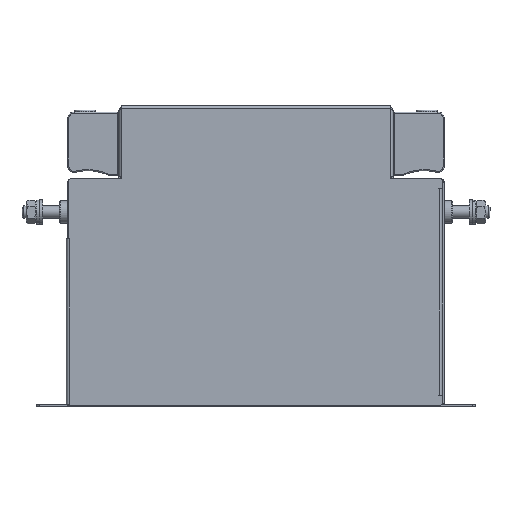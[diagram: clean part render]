
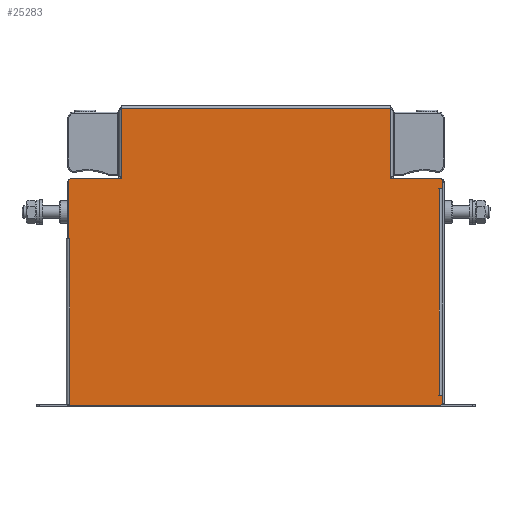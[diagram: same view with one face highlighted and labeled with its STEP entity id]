
A CAD part, top view. The second image highlights one B-rep face of the part: STEP entity #25283.
In plain terms, the highlighted planar face has unit normal (0, 0, 1).
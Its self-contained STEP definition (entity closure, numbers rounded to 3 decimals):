
#2688=FACE_OUTER_BOUND('',#4283,.T.);
#4283=EDGE_LOOP('',(#20041,#20042,#20043,#20044,#20045,#20046,#20047,#20048,
#20049,#20050,#20051,#20052,#20053,#20054,#20055,#20056,#20057,#20058,#20059,
#20060,#20061,#20062,#20063,#20064,#20065,#20066,#20067));
#6573=LINE('',#40890,#8991);
#6576=LINE('',#40896,#8994);
#6578=LINE('',#40900,#8996);
#6580=LINE('',#40905,#8998);
#6589=LINE('',#40929,#9007);
#6591=LINE('',#40934,#9009);
#6593=LINE('',#40939,#9011);
#6597=LINE('',#40945,#9015);
#6598=LINE('',#40947,#9016);
#6599=LINE('',#40951,#9017);
#6602=LINE('',#40955,#9020);
#6604=LINE('',#40959,#9022);
#6611=LINE('',#40979,#9029);
#6614=LINE('',#40991,#9032);
#6615=LINE('',#40995,#9033);
#6618=LINE('',#40999,#9036);
#6619=LINE('',#41001,#9037);
#6620=LINE('',#41005,#9038);
#6624=LINE('',#41011,#9042);
#6630=LINE('',#41026,#9048);
#6632=LINE('',#41030,#9050);
#6634=LINE('',#41034,#9052);
#6635=LINE('',#41036,#9053);
#6648=LINE('',#41059,#9066);
#6649=LINE('',#41061,#9067);
#6661=LINE('',#41086,#9079);
#6662=LINE('',#41088,#9080);
#8991=VECTOR('',#32733,10.);
#8994=VECTOR('',#32738,10.);
#8996=VECTOR('',#32742,10.);
#8998=VECTOR('',#32746,10.);
#9007=VECTOR('',#32773,10.);
#9009=VECTOR('',#32777,10.);
#9011=VECTOR('',#32781,10.);
#9015=VECTOR('',#32787,10.);
#9016=VECTOR('',#32790,10.);
#9017=VECTOR('',#32793,10.);
#9020=VECTOR('',#32798,10.);
#9022=VECTOR('',#32802,10.);
#9029=VECTOR('',#32827,10.);
#9032=VECTOR('',#32840,10.);
#9033=VECTOR('',#32843,10.);
#9036=VECTOR('',#32848,10.);
#9037=VECTOR('',#32851,10.);
#9038=VECTOR('',#32854,10.);
#9042=VECTOR('',#32860,10.);
#9048=VECTOR('',#32878,10.);
#9050=VECTOR('',#32882,10.);
#9052=VECTOR('',#32886,10.);
#9053=VECTOR('',#32889,10.);
#9066=VECTOR('',#32912,10.);
#9067=VECTOR('',#32915,10.);
#9079=VECTOR('',#32945,10.);
#9080=VECTOR('',#32948,10.);
#11159=VERTEX_POINT('',#40827);
#11176=VERTEX_POINT('',#40886);
#11177=VERTEX_POINT('',#40888);
#11178=VERTEX_POINT('',#40892);
#11179=VERTEX_POINT('',#40894);
#11180=VERTEX_POINT('',#40898);
#11181=VERTEX_POINT('',#40902);
#11182=VERTEX_POINT('',#40904);
#11189=VERTEX_POINT('',#40931);
#11190=VERTEX_POINT('',#40933);
#11191=VERTEX_POINT('',#40937);
#11192=VERTEX_POINT('',#40938);
#11193=VERTEX_POINT('',#40943);
#11194=VERTEX_POINT('',#40949);
#11195=VERTEX_POINT('',#40950);
#11196=VERTEX_POINT('',#40957);
#11203=VERTEX_POINT('',#40987);
#11204=VERTEX_POINT('',#40989);
#11205=VERTEX_POINT('',#40993);
#11206=VERTEX_POINT('',#40994);
#11207=VERTEX_POINT('',#41003);
#11208=VERTEX_POINT('',#41004);
#11209=VERTEX_POINT('',#41009);
#11213=VERTEX_POINT('',#41028);
#11214=VERTEX_POINT('',#41032);
#11219=VERTEX_POINT('',#41057);
#11223=VERTEX_POINT('',#41084);
#14137=EDGE_CURVE('',#11177,#11176,#6573,.T.);
#14140=EDGE_CURVE('',#11178,#11179,#6576,.T.);
#14142=EDGE_CURVE('',#11179,#11180,#6578,.T.);
#14144=EDGE_CURVE('',#11182,#11181,#6580,.T.);
#14157=EDGE_CURVE('',#11181,#11178,#6589,.T.);
#14159=EDGE_CURVE('',#11189,#11190,#6591,.T.);
#14161=EDGE_CURVE('',#11191,#11192,#6593,.T.);
#14165=EDGE_CURVE('',#11193,#11191,#6597,.T.);
#14166=EDGE_CURVE('',#11192,#11190,#6598,.T.);
#14167=EDGE_CURVE('',#11194,#11195,#6599,.T.);
#14170=EDGE_CURVE('',#11177,#11194,#6602,.T.);
#14172=EDGE_CURVE('',#11195,#11196,#6604,.T.);
#14183=EDGE_CURVE('',#11196,#11193,#6611,.T.);
#14188=EDGE_CURVE('',#11204,#11203,#6614,.T.);
#14189=EDGE_CURVE('',#11205,#11206,#6615,.T.);
#14192=EDGE_CURVE('',#11159,#11205,#6618,.T.);
#14193=EDGE_CURVE('',#11206,#11203,#6619,.T.);
#14194=EDGE_CURVE('',#11207,#11208,#6620,.T.);
#14198=EDGE_CURVE('',#11208,#11209,#6624,.T.);
#14206=EDGE_CURVE('',#11209,#11159,#6630,.T.);
#14208=EDGE_CURVE('',#11213,#11207,#6632,.T.);
#14210=EDGE_CURVE('',#11214,#11213,#6634,.T.);
#14211=EDGE_CURVE('',#11214,#11180,#6635,.T.);
#14224=EDGE_CURVE('',#11219,#11182,#6648,.T.);
#14225=EDGE_CURVE('',#11219,#11189,#6649,.T.);
#14237=EDGE_CURVE('',#11223,#11204,#6661,.T.);
#14238=EDGE_CURVE('',#11176,#11223,#6662,.T.);
#20041=ORIENTED_EDGE('',*,*,#14238,.F.);
#20042=ORIENTED_EDGE('',*,*,#14137,.F.);
#20043=ORIENTED_EDGE('',*,*,#14170,.T.);
#20044=ORIENTED_EDGE('',*,*,#14167,.T.);
#20045=ORIENTED_EDGE('',*,*,#14172,.T.);
#20046=ORIENTED_EDGE('',*,*,#14183,.T.);
#20047=ORIENTED_EDGE('',*,*,#14165,.T.);
#20048=ORIENTED_EDGE('',*,*,#14161,.T.);
#20049=ORIENTED_EDGE('',*,*,#14166,.T.);
#20050=ORIENTED_EDGE('',*,*,#14159,.F.);
#20051=ORIENTED_EDGE('',*,*,#14225,.F.);
#20052=ORIENTED_EDGE('',*,*,#14224,.T.);
#20053=ORIENTED_EDGE('',*,*,#14144,.T.);
#20054=ORIENTED_EDGE('',*,*,#14157,.T.);
#20055=ORIENTED_EDGE('',*,*,#14140,.T.);
#20056=ORIENTED_EDGE('',*,*,#14142,.T.);
#20057=ORIENTED_EDGE('',*,*,#14211,.F.);
#20058=ORIENTED_EDGE('',*,*,#14210,.T.);
#20059=ORIENTED_EDGE('',*,*,#14208,.T.);
#20060=ORIENTED_EDGE('',*,*,#14194,.T.);
#20061=ORIENTED_EDGE('',*,*,#14198,.T.);
#20062=ORIENTED_EDGE('',*,*,#14206,.T.);
#20063=ORIENTED_EDGE('',*,*,#14192,.T.);
#20064=ORIENTED_EDGE('',*,*,#14189,.T.);
#20065=ORIENTED_EDGE('',*,*,#14193,.T.);
#20066=ORIENTED_EDGE('',*,*,#14188,.F.);
#20067=ORIENTED_EDGE('',*,*,#14237,.F.);
#22605=PLANE('',#27275);
#25283=ADVANCED_FACE('',(#2688),#22605,.T.);
#27275=AXIS2_PLACEMENT_3D('',#41089,#32949,#32950);
#32733=DIRECTION('',(0.,-1.,0.));
#32738=DIRECTION('',(0.,-1.,0.));
#32742=DIRECTION('',(-1.,0.,0.));
#32746=DIRECTION('',(0.,1.,0.));
#32773=DIRECTION('',(-1.,0.,0.));
#32777=DIRECTION('',(0.,-1.,0.));
#32781=DIRECTION('',(0.,1.,0.));
#32787=DIRECTION('',(-1.,0.,0.));
#32790=DIRECTION('',(1.,0.,0.));
#32793=DIRECTION('',(0.,1.,0.));
#32798=DIRECTION('',(-1.,0.,0.));
#32802=DIRECTION('',(1.,0.,0.));
#32827=DIRECTION('',(0.,1.,0.));
#32840=DIRECTION('',(0.,1.,0.));
#32843=DIRECTION('',(0.,-1.,0.));
#32848=DIRECTION('',(1.,0.,0.));
#32851=DIRECTION('',(-1.,0.,0.));
#32854=DIRECTION('',(0.,-1.,0.));
#32860=DIRECTION('',(-1.,0.,0.));
#32878=DIRECTION('',(0.,-1.,0.));
#32882=DIRECTION('',(1.,0.,0.));
#32886=DIRECTION('',(0.,-1.,0.));
#32889=DIRECTION('',(0.707,0.707,0.));
#32912=DIRECTION('',(-1.,0.,0.));
#32915=DIRECTION('',(0.707,-0.707,0.));
#32945=DIRECTION('',(-1.,0.,0.));
#32948=DIRECTION('',(-0.707,-0.707,0.));
#32949=DIRECTION('center_axis',(0.,0.,
1.));
#32950=DIRECTION('ref_axis',(1.,0.,0.));
#40827=CARTESIAN_POINT('',(-91.2,1.,24.85));
#40886=CARTESIAN_POINT('',(91.,1.5,24.85));
#40888=CARTESIAN_POINT('',(91.,5.49,24.85));
#40890=CARTESIAN_POINT('',(91.,0.5,24.85));
#40892=CARTESIAN_POINT('',(-66.,145.5,24.85));
#40894=CARTESIAN_POINT('',(-66.,111.3,24.85));
#40896=CARTESIAN_POINT('',(-66.,110.375,24.85));
#40898=CARTESIAN_POINT('',(-90.5,111.3,24.85));
#40900=CARTESIAN_POINT('',(-33.25,111.3,24.85));
#40902=CARTESIAN_POINT('',(66.,145.5,24.85));
#40904=CARTESIAN_POINT('',(66.,111.3,24.85));
#40905=CARTESIAN_POINT('',(66.,92.525,24.85));
#40929=CARTESIAN_POINT('',(32.75,145.5,24.85));
#40931=CARTESIAN_POINT('',(91.,110.3,24.85));
#40933=CARTESIAN_POINT('',(91.,106.31,24.85));
#40934=CARTESIAN_POINT('',(91.,0.5,24.85));
#40937=CARTESIAN_POINT('',(89.49,106.3,24.85));
#40938=CARTESIAN_POINT('',(89.49,106.31,24.85));
#40939=CARTESIAN_POINT('',(89.49,90.025,24.85));
#40943=CARTESIAN_POINT('',(89.5,106.3,24.85));
#40945=CARTESIAN_POINT('',(45.25,106.3,24.85));
#40947=CARTESIAN_POINT('',(44.495,106.31,24.85));
#40949=CARTESIAN_POINT('',(89.49,5.49,24.85));
#40950=CARTESIAN_POINT('',(89.49,5.5,24.85));
#40951=CARTESIAN_POINT('',(89.49,39.62,24.85));
#40955=CARTESIAN_POINT('',(45.25,5.49,24.85));
#40957=CARTESIAN_POINT('',(89.5,5.5,24.85));
#40959=CARTESIAN_POINT('',(44.495,5.5,24.85));
#40979=CARTESIAN_POINT('',(89.5,39.625,24.85));
#40987=CARTESIAN_POINT('',(-92.,0.99,24.85));
#40989=CARTESIAN_POINT('',(-92.,0.5,24.85));
#40991=CARTESIAN_POINT('',(-92.,147.,24.85));
#40993=CARTESIAN_POINT('',(-91.19,1.,24.85));
#40994=CARTESIAN_POINT('',(-91.19,0.99,24.85));
#40995=CARTESIAN_POINT('',(-91.19,37.375,24.85));
#40999=CARTESIAN_POINT('',(-46.25,1.,24.85));
#41001=CARTESIAN_POINT('',(-45.845,0.99,24.85));
#41003=CARTESIAN_POINT('',(-91.19,81.91,24.85));
#41004=CARTESIAN_POINT('',(-91.19,81.9,24.85));
#41005=CARTESIAN_POINT('',(-91.19,77.83,24.85));
#41009=CARTESIAN_POINT('',(-91.2,81.9,24.85));
#41011=CARTESIAN_POINT('',(-45.845,81.9,24.85));
#41026=CARTESIAN_POINT('',(-91.2,77.825,24.85));
#41028=CARTESIAN_POINT('',(-91.5,81.91,24.85));
#41030=CARTESIAN_POINT('',(-46.25,81.91,24.85));
#41032=CARTESIAN_POINT('',(-91.5,110.3,24.85));
#41034=CARTESIAN_POINT('',(-91.5,85.177,24.85));
#41036=CARTESIAN_POINT('',(-77.638,124.163,24.85));
#41057=CARTESIAN_POINT('',(90.,111.3,24.85));
#41059=CARTESIAN_POINT('',(45.25,111.3,24.85));
#41061=CARTESIAN_POINT('',(77.012,124.288,24.85));
#41084=CARTESIAN_POINT('',(90.,0.5,24.85));
#41086=CARTESIAN_POINT('',(-92.,0.5,24.85));
#41088=CARTESIAN_POINT('',(85.937,-3.563,24.85));
#41089=CARTESIAN_POINT('Origin',(-0.5,73.75,24.85));
